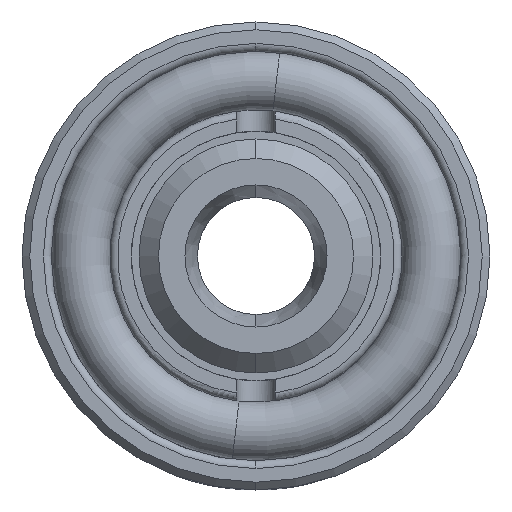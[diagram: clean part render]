
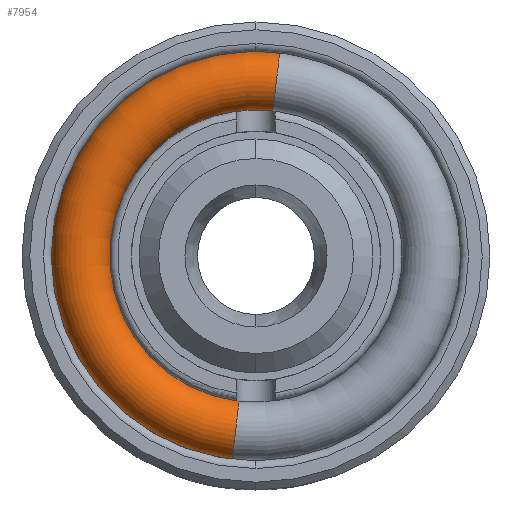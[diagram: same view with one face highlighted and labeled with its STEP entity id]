
A CAD part, front view. The second image highlights one B-rep face of the part: STEP entity #7954.
In plain terms, the highlighted toroidal (fillet/blend) face has major radius 4.5 mm and minor radius 0.75 mm.
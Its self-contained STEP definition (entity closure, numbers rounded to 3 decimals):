
#374 = DIRECTION ( 'NONE',  ( 1., 0., 0. ) ) ;
#729 = AXIS2_PLACEMENT_3D ( 'NONE', #9107, #19029, #5003 ) ;
#2053 = CARTESIAN_POINT ( 'NONE',  ( 0., 0., -4.5 ) ) ;
#3557 = CARTESIAN_POINT ( 'NONE',  ( 0., 0., -5.25 ) ) ;
#3693 = AXIS2_PLACEMENT_3D ( 'NONE', #2053, #16307, #10248 ) ;
#4038 = DIRECTION ( 'NONE',  ( 0., 0., -1. ) ) ;
#4190 = CARTESIAN_POINT ( 'NONE',  ( 0., 0., 0. ) ) ;
#5003 = DIRECTION ( 'NONE',  ( 0., 0., -1. ) ) ;
#6004 = CIRCLE ( 'NONE', #22769, 5.25 ) ;
#6099 = CARTESIAN_POINT ( 'NONE',  ( 0., 0., 3.75 ) ) ;
#6717 = EDGE_CURVE ( 'NONE', #24038, #19013, #23831, .T. ) ;
#6760 = CARTESIAN_POINT ( 'NONE',  ( 0., 0., -3.75 ) ) ;
#7359 = DIRECTION ( 'NONE',  ( 0., 0., -1. ) ) ;
#7954 = ADVANCED_FACE ( 'NONE', ( #21802 ), #14057, .T. ) ;
#8526 = ORIENTED_EDGE ( 'NONE', *, *, #18668, .T. ) ;
#9107 = CARTESIAN_POINT ( 'NONE',  ( 0., 0., 0. ) ) ;
#9204 = CARTESIAN_POINT ( 'NONE',  ( 0., 0., 5.25 ) ) ;
#9665 = AXIS2_PLACEMENT_3D ( 'NONE', #4190, #20578, #4038 ) ;
#10248 = DIRECTION ( 'NONE',  ( 0., 0., 1. ) ) ;
#11525 = CARTESIAN_POINT ( 'NONE',  ( 0., 0., 0. ) ) ;
#11987 = ORIENTED_EDGE ( 'NONE', *, *, #26029, .F. ) ;
#12209 = CIRCLE ( 'NONE', #14195, 0.75 ) ;
#12570 = CARTESIAN_POINT ( 'NONE',  ( 0., 0., 4.5 ) ) ;
#13336 = VERTEX_POINT ( 'NONE', #9204 ) ;
#14057 = TOROIDAL_SURFACE ( 'NONE', #9665, 4.5, 0.75 ) ;
#14195 = AXIS2_PLACEMENT_3D ( 'NONE', #12570, #374, #14283 ) ;
#14283 = DIRECTION ( 'NONE',  ( 0., 0., -1. ) ) ;
#15845 = EDGE_LOOP ( 'NONE', ( #11987, #8526, #16452, #17806 ) ) ;
#16307 = DIRECTION ( 'NONE',  ( -1., 0., 0. ) ) ;
#16452 = ORIENTED_EDGE ( 'NONE', *, *, #17352, .T. ) ;
#17352 = EDGE_CURVE ( 'NONE', #25309, #19013, #19189, .T. ) ;
#17806 = ORIENTED_EDGE ( 'NONE', *, *, #6717, .F. ) ;
#18668 = EDGE_CURVE ( 'NONE', #13336, #25309, #6004, .T. ) ;
#19013 = VERTEX_POINT ( 'NONE', #6760 ) ;
#19029 = DIRECTION ( 'NONE',  ( 0., -1., 0. ) ) ;
#19189 = CIRCLE ( 'NONE', #3693, 0.75 ) ;
#19604 = DIRECTION ( 'NONE',  ( 0., -1., 0. ) ) ;
#20578 = DIRECTION ( 'NONE',  ( 0., -1., 0. ) ) ;
#21802 = FACE_OUTER_BOUND ( 'NONE', #15845, .T. ) ;
#22769 = AXIS2_PLACEMENT_3D ( 'NONE', #11525, #19604, #7359 ) ;
#23831 = CIRCLE ( 'NONE', #729, 3.75 ) ;
#24038 = VERTEX_POINT ( 'NONE', #6099 ) ;
#25309 = VERTEX_POINT ( 'NONE', #3557 ) ;
#26029 = EDGE_CURVE ( 'NONE', #13336, #24038, #12209, .T. ) ;
